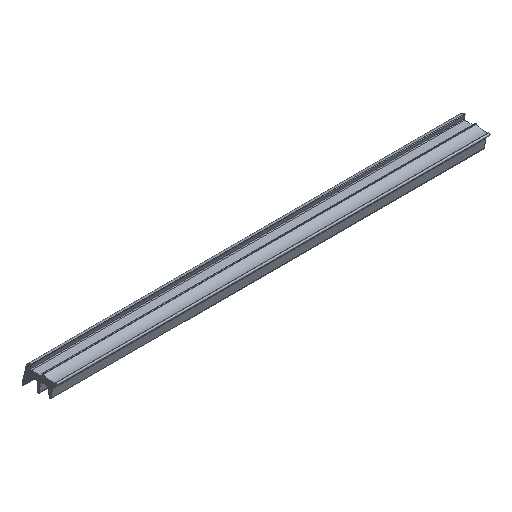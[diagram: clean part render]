
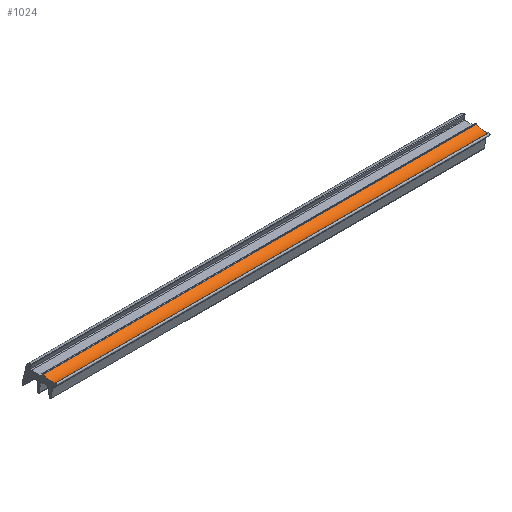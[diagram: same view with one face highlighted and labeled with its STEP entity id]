
A CAD part, isometric view. The second image highlights one B-rep face of the part: STEP entity #1024.
In plain terms, the highlighted cylindrical face has radius 6 mm (diameter 12 mm), a partial arc.
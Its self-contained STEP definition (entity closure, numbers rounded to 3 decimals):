
#3 = ORIENTED_EDGE ( 'NONE', *, *, #1396, .T. ) ;
#78 = VERTEX_POINT ( 'NONE', #659 ) ;
#205 = LINE ( 'NONE', #1552, #1279 ) ;
#354 = EDGE_CURVE ( 'NONE', #1242, #1459, #205, .T. ) ;
#386 = LINE ( 'NONE', #895, #1239 ) ;
#413 = CARTESIAN_POINT ( 'NONE',  ( 200., -2.578, 2.584 ) ) ;
#445 = DIRECTION ( 'NONE',  ( -1., 0., 0. ) ) ;
#539 = CIRCLE ( 'NONE', #1087, 6. ) ;
#649 = DIRECTION ( 'NONE',  ( -1., 0., 0. ) ) ;
#659 = CARTESIAN_POINT ( 'NONE',  ( 0., -2.578, 2.584 ) ) ;
#694 = CARTESIAN_POINT ( 'NONE',  ( 0., -6.019, 7.499 ) ) ;
#710 = VERTEX_POINT ( 'NONE', #413 ) ;
#819 = FACE_OUTER_BOUND ( 'NONE', #1299, .T. ) ;
#835 = AXIS2_PLACEMENT_3D ( 'NONE', #1066, #930, #1439 ) ;
#864 = DIRECTION ( 'NONE',  ( -1., 0., 0. ) ) ;
#868 = CARTESIAN_POINT ( 'NONE',  ( 200., -7.928, 1.81 ) ) ;
#895 = CARTESIAN_POINT ( 'NONE',  ( 200., -2.578, 2.584 ) ) ;
#904 = ORIENTED_EDGE ( 'NONE', *, *, #1492, .F. ) ;
#930 = DIRECTION ( 'NONE',  ( -1., 0., 0. ) ) ;
#974 = CIRCLE ( 'NONE', #1318, 6. ) ;
#994 = ORIENTED_EDGE ( 'NONE', *, *, #354, .F. ) ;
#1024 = ADVANCED_FACE ( 'NONE', ( #819 ), #1554, .F. ) ;
#1028 = ORIENTED_EDGE ( 'NONE', *, *, #1297, .T. ) ;
#1066 = CARTESIAN_POINT ( 'NONE',  ( 200., -6.019, 7.499 ) ) ;
#1087 = AXIS2_PLACEMENT_3D ( 'NONE', #694, #1196, #1584 ) ;
#1196 = DIRECTION ( 'NONE',  ( -1., 0., 0. ) ) ;
#1239 = VECTOR ( 'NONE', #649, 1000. ) ;
#1240 = DIRECTION ( 'NONE',  ( 0., 0., -1. ) ) ;
#1242 = VERTEX_POINT ( 'NONE', #868 ) ;
#1279 = VECTOR ( 'NONE', #445, 1000. ) ;
#1297 = EDGE_CURVE ( 'NONE', #710, #78, #386, .T. ) ;
#1299 = EDGE_LOOP ( 'NONE', ( #3, #994, #904, #1028 ) ) ;
#1318 = AXIS2_PLACEMENT_3D ( 'NONE', #1366, #864, #1240 ) ;
#1366 = CARTESIAN_POINT ( 'NONE',  ( 200., -6.019, 7.499 ) ) ;
#1396 = EDGE_CURVE ( 'NONE', #78, #1459, #539, .T. ) ;
#1439 = DIRECTION ( 'NONE',  ( 0., 0., 1. ) ) ;
#1459 = VERTEX_POINT ( 'NONE', #1502 ) ;
#1492 = EDGE_CURVE ( 'NONE', #710, #1242, #974, .T. ) ;
#1502 = CARTESIAN_POINT ( 'NONE',  ( 0., -7.928, 1.81 ) ) ;
#1552 = CARTESIAN_POINT ( 'NONE',  ( 200., -7.928, 1.81 ) ) ;
#1554 = CYLINDRICAL_SURFACE ( 'NONE', #835, 6. ) ;
#1584 = DIRECTION ( 'NONE',  ( 0., 0., -1. ) ) ;
